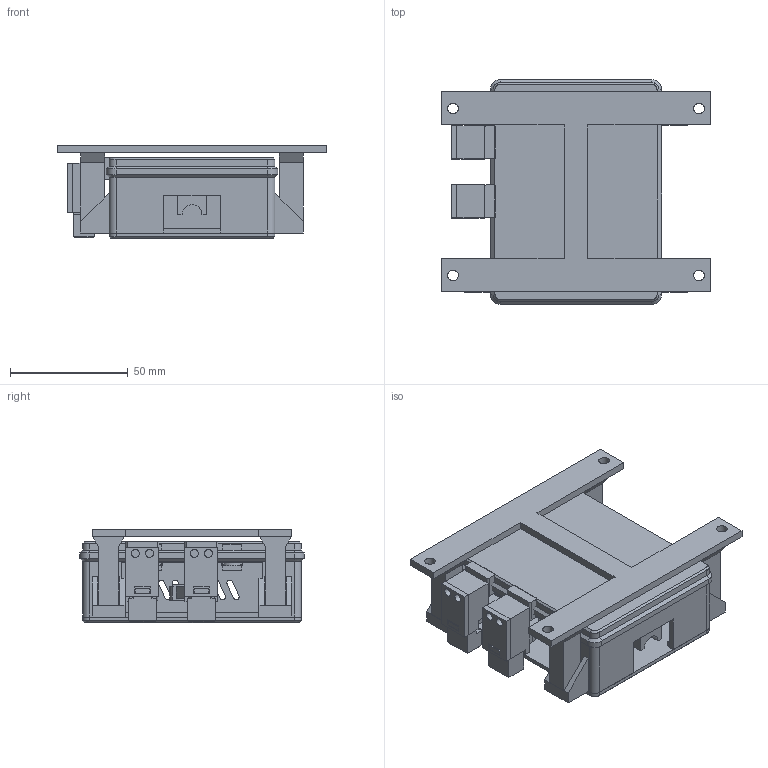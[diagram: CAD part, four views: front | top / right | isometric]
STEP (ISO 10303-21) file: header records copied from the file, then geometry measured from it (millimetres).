
FILE_DESCRIPTION(('SolidCraft model'),'2;1');
FILE_NAME('usb_fit_clearance-high-native.step','',(''),(''),'SolidCraft','SolidCraft','');
FILE_SCHEMA(('AP242_MANAGED_MODEL_BASED_3D_ENGINEERING_MIM_LF { 1 0 10303 442 1 1 4 }'));
Length unit declared in the file: millimetre
Products named in the file (1): usb_fit_clearance-high-native
Bounding box: 114.3 x 95.2 x 39.6 mm (x, y, z)
Volume: 95797.7 mm3; surface area: 78894.1 mm2
Topology: 26 solids, 26 shells, 690 faces, 1831 edges, 1234 vertices
Faces by surface type: plane 546, cylinder 124, cone 16, bspline 4
Full cylindrical faces by diameter (mm): 3.4 x22, 4 x19, 4.5 x4
Entity records: 17582 total; most frequent: CARTESIAN_POINT 3812, ORIENTED_EDGE 3662, EDGE_CURVE 1831, LINE 1433, VERTEX_POINT 1234, DIRECTION 960, VECTOR 885, EDGE_LOOP 829
